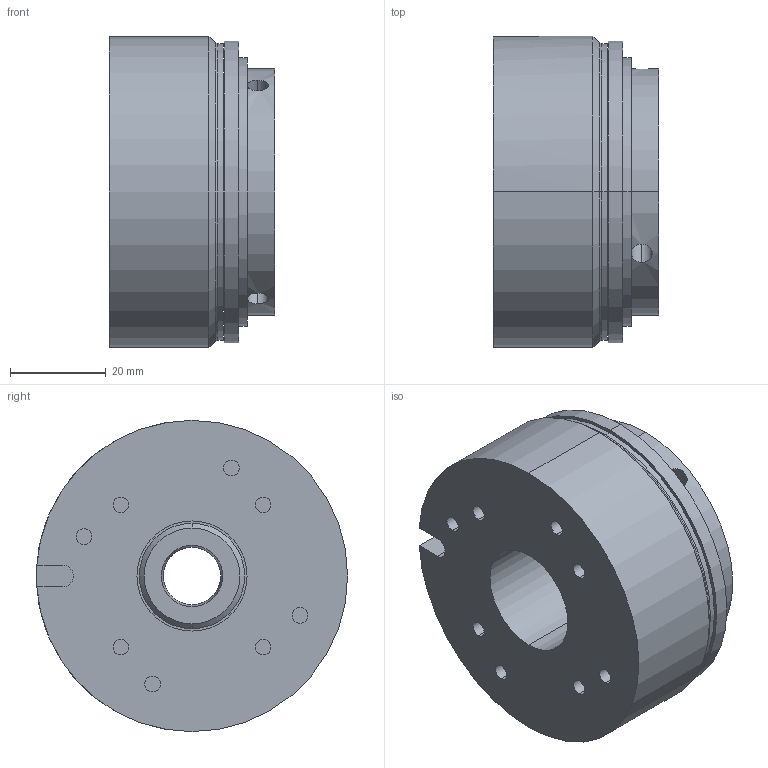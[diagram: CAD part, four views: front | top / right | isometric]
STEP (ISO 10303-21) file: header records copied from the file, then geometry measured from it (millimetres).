
FILE_DESCRIPTION (( 'STEP AP214' ), '1' );
FILE_NAME ('86_61106K00_Bohrung Ø12H7.STEP', '2019-05-17T09:44:23', ( '' ), ( '' ), 'SwSTEP 2.0', 'SolidWorks 2018', '' );
FILE_SCHEMA (( 'AUTOMOTIVE_DESIGN' ));
Length unit declared in the file: millimetre
Products named in the file (1): 86_61106K00_Bohrung Ø12H7
Bounding box: 34.5 x 65 x 65 mm (x, y, z)
Volume: 91920.7 mm3; surface area: 22468.6 mm2
Topology: 2 solids, 2 shells, 79 faces, 174 edges, 111 vertices
Faces by surface type: cylinder 47, plane 22, cone 8, torus 2
Entity records: 2749 total; most frequent: CARTESIAN_POINT 700, DIRECTION 416, ORIENTED_EDGE 348, AXIS2_PLACEMENT_3D 177, EDGE_CURVE 174, VERTEX_POINT 111, EDGE_LOOP 101, CIRCLE 97
